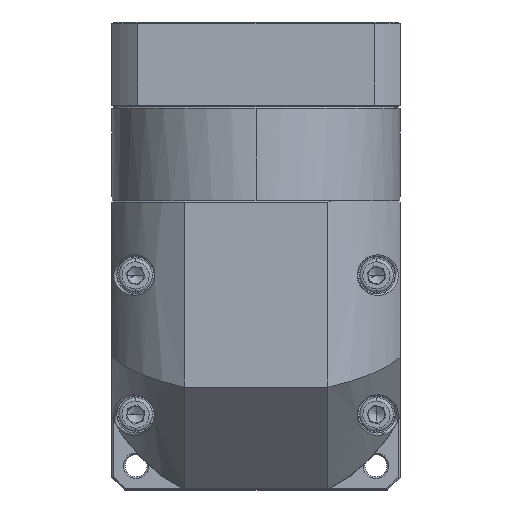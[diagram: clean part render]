
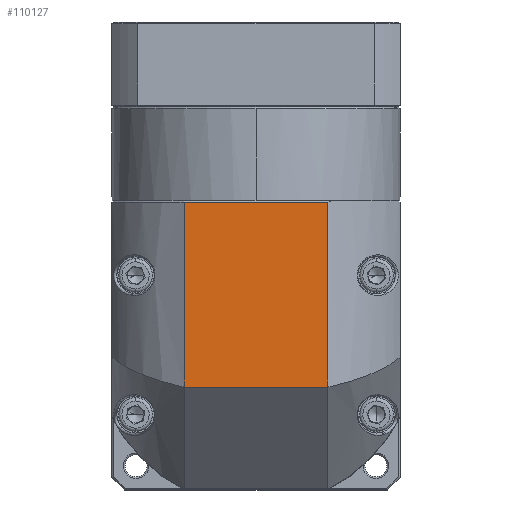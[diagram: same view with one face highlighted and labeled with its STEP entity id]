
A CAD part, top view. The second image highlights one B-rep face of the part: STEP entity #110127.
In plain terms, the highlighted planar face has unit normal (0, 0, 1).
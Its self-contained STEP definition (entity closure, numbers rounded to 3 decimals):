
#519 = DIRECTION ( 'NONE',  ( 0., 1., 0. ) ) ;
#2088 = CARTESIAN_POINT ( 'NONE',  ( -24.417, 16.453, 64.534 ) ) ;
#3287 = EDGE_CURVE ( 'NONE', #113201, #111184, #124064, .T. ) ;
#4373 = CARTESIAN_POINT ( 'NONE',  ( -45.63, 28.953, 64.534 ) ) ;
#10936 = VECTOR ( 'NONE', #114747, 1000. ) ;
#12130 = CARTESIAN_POINT ( 'NONE',  ( -66.843, 16.453, 64.534 ) ) ;
#16690 = EDGE_CURVE ( 'NONE', #131383, #26175, #101095, .T. ) ;
#26175 = VERTEX_POINT ( 'NONE', #43490 ) ;
#27484 = DIRECTION ( 'NONE',  ( -1., 0., 0. ) ) ;
#41236 = ORIENTED_EDGE ( 'NONE', *, *, #16690, .F. ) ;
#43490 = CARTESIAN_POINT ( 'NONE',  ( -66.843, 70.953, 64.534 ) ) ;
#51895 = CARTESIAN_POINT ( 'NONE',  ( -45.63, 70.953, 64.534 ) ) ;
#53828 = DIRECTION ( 'NONE',  ( 0., -1., 0. ) ) ;
#57279 = DIRECTION ( 'NONE',  ( 0., 1., 0. ) ) ;
#58356 = EDGE_LOOP ( 'NONE', ( #41236, #75985, #100718, #93647 ) ) ;
#74393 = CARTESIAN_POINT ( 'NONE',  ( -24.417, -29.047, 64.534 ) ) ;
#75985 = ORIENTED_EDGE ( 'NONE', *, *, #95797, .F. ) ;
#83654 = EDGE_CURVE ( 'NONE', #113201, #26175, #97525, .T. ) ;
#87913 = VECTOR ( 'NONE', #27484, 1000. ) ;
#88384 = PLANE ( 'NONE',  #106763 ) ;
#89979 = FACE_OUTER_BOUND ( 'NONE', #58356, .T. ) ;
#93647 = ORIENTED_EDGE ( 'NONE', *, *, #83654, .T. ) ;
#95797 = EDGE_CURVE ( 'NONE', #111184, #131383, #118712, .T. ) ;
#96525 = VECTOR ( 'NONE', #53828, 1000. ) ;
#97525 = LINE ( 'NONE', #51895, #10936 ) ;
#98822 = DIRECTION ( 'NONE',  ( 0., 0., 1. ) ) ;
#100718 = ORIENTED_EDGE ( 'NONE', *, *, #3287, .F. ) ;
#101095 = LINE ( 'NONE', #114482, #120568 ) ;
#106763 = AXIS2_PLACEMENT_3D ( 'NONE', #4373, #98822, #57279 ) ;
#109558 = CARTESIAN_POINT ( 'NONE',  ( -45.63, 16.453, 64.534 ) ) ;
#110127 = ADVANCED_FACE ( 'NONE', ( #89979 ), #88384, .T. ) ;
#111184 = VERTEX_POINT ( 'NONE', #2088 ) ;
#113201 = VERTEX_POINT ( 'NONE', #131310 ) ;
#114482 = CARTESIAN_POINT ( 'NONE',  ( -66.843, -29.047, 64.534 ) ) ;
#114747 = DIRECTION ( 'NONE',  ( -1., 0., 0. ) ) ;
#118712 = LINE ( 'NONE', #109558, #87913 ) ;
#120568 = VECTOR ( 'NONE', #519, 1000. ) ;
#124064 = LINE ( 'NONE', #74393, #96525 ) ;
#131310 = CARTESIAN_POINT ( 'NONE',  ( -24.417, 70.953, 64.534 ) ) ;
#131383 = VERTEX_POINT ( 'NONE', #12130 ) ;
